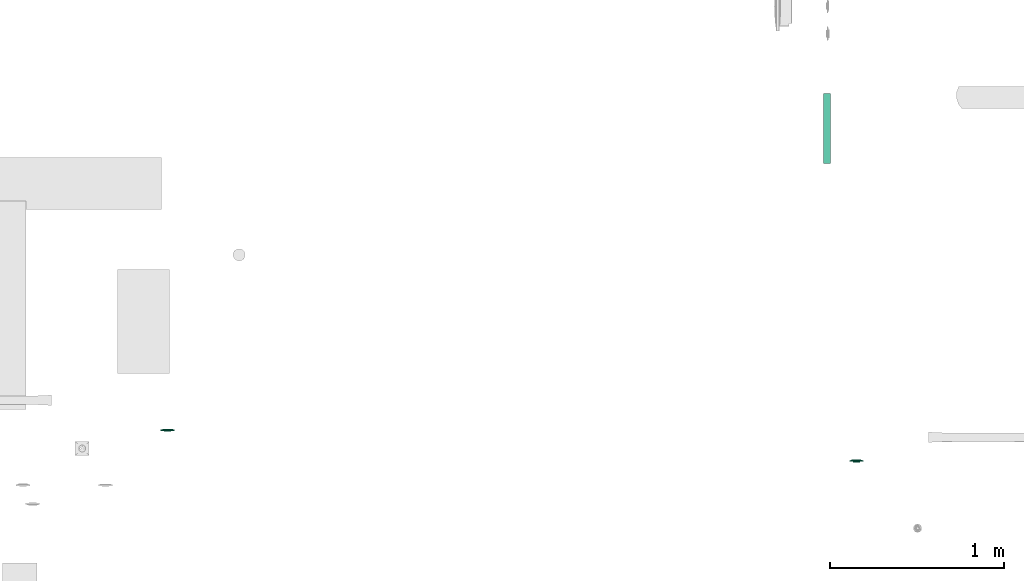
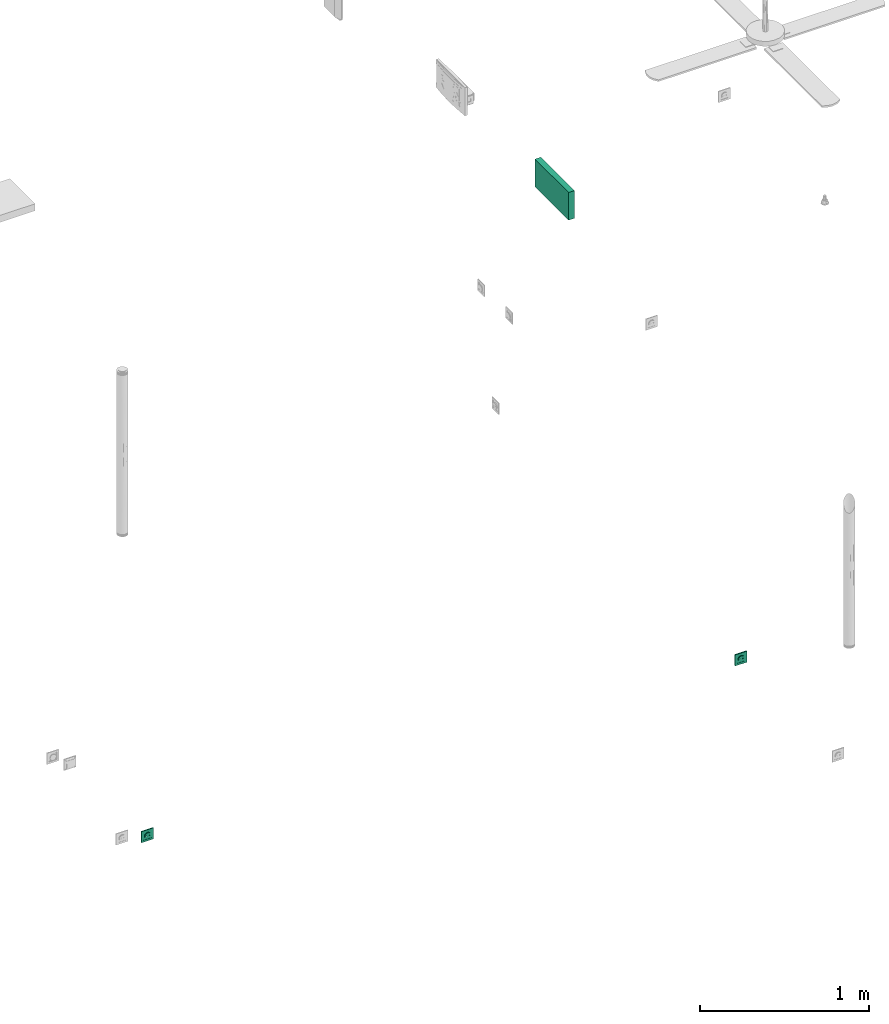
# One storey, part 71 of 153: 3 flow terminals.
"""IFC2X3 building model written with IfcOpenShell, lengths in metres."""

from ifc_helpers import new_model, entity, si_unit, converted_unit, derived_unit, direction, frame, frame_2d, origin, place, context, subcontext, project, spatial, rectangle, extrude, face_set, surface_model, source, transform, mapped, type_object, type_shapes, element, save


model = new_model("IFC2X3")

# Units and contexts
model_context = context("Model", 3, precision=1e-05, world=origin(), true_north=direction((6.12303176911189e-17, 1.0)))
body_context = subcontext(model_context, "Body", "Model", "MODEL_VIEW")
ifc_project = project(units=[si_unit("LENGTHUNIT", "METRE"), si_unit("AREAUNIT", "SQUARE_METRE"), si_unit("VOLUMEUNIT", "CUBIC_METRE"), converted_unit("PLANEANGLEUNIT", "DEGREE", entity("IfcRatioMeasure", 0.0174532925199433), si_unit("PLANEANGLEUNIT", "RADIAN"), dimensions=[0, 0, 0, 0, 0, 0, 0]), si_unit("MASSUNIT", "GRAM", prefix="KILO"), derived_unit("MASSDENSITYUNIT", [(si_unit("MASSUNIT", "GRAM", prefix="KILO"), 1), (si_unit("LENGTHUNIT", "METRE"), -3)]), si_unit("TIMEUNIT", "SECOND"), si_unit("FREQUENCYUNIT", "HERTZ"), si_unit("THERMODYNAMICTEMPERATUREUNIT", "DEGREE_CELSIUS"), derived_unit("THERMALTRANSMITTANCEUNIT", [(si_unit("MASSUNIT", "GRAM", prefix="KILO"), 1), (si_unit("THERMODYNAMICTEMPERATUREUNIT", "KELVIN"), -1), (si_unit("TIMEUNIT", "SECOND"), -3)]), derived_unit("VOLUMETRICFLOWRATEUNIT", [(si_unit("LENGTHUNIT", "METRE"), 3), (si_unit("TIMEUNIT", "SECOND"), -1)]), si_unit("ELECTRICCURRENTUNIT", "AMPERE"), si_unit("ELECTRICVOLTAGEUNIT", "VOLT"), si_unit("POWERUNIT", "WATT"), si_unit("FORCEUNIT", "NEWTON"), si_unit("ILLUMINANCEUNIT", "LUX"), si_unit("LUMINOUSFLUXUNIT", "LUMEN"), si_unit("LUMINOUSINTENSITYUNIT", "CANDELA"), derived_unit("USERDEFINED", [(si_unit("MASSUNIT", "GRAM", prefix="KILO"), -1), (si_unit("LENGTHUNIT", "METRE"), -2), (si_unit("TIMEUNIT", "SECOND"), 3), (si_unit("LUMINOUSFLUXUNIT", "LUMEN"), 1)]), derived_unit("LINEARVELOCITYUNIT", [(si_unit("LENGTHUNIT", "METRE"), 1), (si_unit("TIMEUNIT", "SECOND"), -1)]), si_unit("PRESSUREUNIT", "PASCAL"), derived_unit("USERDEFINED", [(si_unit("LENGTHUNIT", "METRE"), -2), (si_unit("MASSUNIT", "GRAM", prefix="KILO"), 1), (si_unit("TIMEUNIT", "SECOND"), -2)])], contexts=[model_context])

# Site, building, storey
site_placement = place(None, origin())
site = spatial("IfcSite", under=ifc_project, at=site_placement, Name="Default", CompositionType="ELEMENT")
building_placement = place(site_placement, origin())
building = spatial("IfcBuilding", under=site, at=building_placement, CompositionType="ELEMENT")
storey_placement = place(building_placement, frame((0.0, 0.0, -4.62)))
storey = spatial("IfcBuildingStorey", under=building, at=storey_placement, Name="S02", CompositionType="ELEMENT", Elevation=-4.62)

# Flow terminals
light_fixture_type = type_object("IfcLightFixtureType", Name="Attente", PredefinedType="NOTDEFINED")
shared_shape_1 = source(origin(), body_context, "Body", "SurfaceModel", [
    surface_model("IfcFaceBasedSurfaceModel", [(0.00225000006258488, 0.00949633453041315, 0.0127499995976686), (0.0, 0.00949633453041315, 0.0104999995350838), (0.0, 0.0101656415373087, 0.0115376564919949), (0.0, 0.0101656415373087, 0.0139623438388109), (0.0, 0.00984531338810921, 0.0144589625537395), (0.0, 0.0102778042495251, 0.0121178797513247), (0.0, 0.0102778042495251, 0.0133821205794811), (0.0, 0.010399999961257, 0.0127499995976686), (0.0, 0.00949633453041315, 0.0149999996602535), (-0.00225000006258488, 0.00949633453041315, 0.0127499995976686), (0.0, 0.00984531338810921, 0.0110410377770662), (0.0, 0.00949633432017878, 0.0127499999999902), (-0.0022499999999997, 0.0094963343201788, 0.0127499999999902), (-0.00217333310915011, 0.00949633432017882, 0.0121676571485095), (-0.0019485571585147, 0.00949633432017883, 0.0116249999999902), (-0.00159099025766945, 0.00949633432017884, 0.0111590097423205), (-0.00112499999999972, 0.00949633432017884, 0.0108014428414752), (-0.000582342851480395, 0.00949633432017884, 0.0105766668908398), (0.0, 0.00949633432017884, 0.0104999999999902), (0.000582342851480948, 0.00949633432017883, 0.0105766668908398), (0.00112500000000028, 0.00949633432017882, 0.0108014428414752), (0.00159099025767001, 0.00949633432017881, 0.0111590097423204), (0.00194855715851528, 0.00949633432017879, 0.0116249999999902), (0.0021733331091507, 0.00949633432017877, 0.0121676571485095), (0.0022500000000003, 0.00949633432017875, 0.0127499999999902), (0.00217333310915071, 0.00949633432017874, 0.0133323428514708), (0.0019485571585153, 0.00949633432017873, 0.0138749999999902), (0.00159099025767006, 0.00949633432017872, 0.0143409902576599), (0.00112500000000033, 0.00949633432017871, 0.0146985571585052), (0.000582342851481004, 0.00949633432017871, 0.0149233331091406), (0.0, 0.00949633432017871, 0.0149999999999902), (-0.000582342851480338, 0.00949633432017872, 0.0149233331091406), (-0.00112499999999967, 0.00949633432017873, 0.0146985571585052), (-0.00159099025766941, 0.00949633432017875, 0.0143409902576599), (-0.00194855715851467, 0.00949633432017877, 0.0138749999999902), (-0.00217333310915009, 0.00949633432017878, 0.0133323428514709), (-0.00224999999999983, -0.00360000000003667, 0.0127499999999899), (-0.00217333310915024, -0.00360000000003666, 0.0121676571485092), (-0.00194855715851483, -0.00360000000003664, 0.0116249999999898), (-0.00159099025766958, -0.00360000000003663, 0.0111590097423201), (-0.00112499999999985, -0.00360000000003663, 0.0108014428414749), (-0.000582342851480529, -0.00360000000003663, 0.0105766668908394), (0.0, -0.00360000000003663, 0.0104999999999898), (0.000582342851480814, -0.00360000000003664, 0.0105766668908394), (0.00112500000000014, -0.00360000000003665, 0.0108014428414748), (0.00159099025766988, -0.00360000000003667, 0.0111590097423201), (0.00194855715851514, -0.00360000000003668, 0.0116249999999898), (0.00217333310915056, -0.0036000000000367, 0.0121676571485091), (0.00225000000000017, -0.00360000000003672, 0.0127499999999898), (0.00217333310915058, -0.00360000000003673, 0.0133323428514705), (0.00194855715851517, -0.00360000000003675, 0.0138749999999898), (0.00159099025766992, -0.00360000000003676, 0.0143409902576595), (0.00112500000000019, -0.00360000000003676, 0.0146985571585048), (0.00058234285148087, -0.00360000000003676, 0.0149233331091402), (0.0, -0.00360000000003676, 0.0149999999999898), (-0.000582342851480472, -0.00360000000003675, 0.0149233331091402), (-0.0011249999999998, -0.00360000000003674, 0.0146985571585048), (-0.00159099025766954, -0.00360000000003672, 0.0143409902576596), (-0.0019485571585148, -0.00360000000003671, 0.0138749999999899), (-0.00217333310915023, -0.00360000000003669, 0.0133323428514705), (-0.0270000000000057, 0.0113999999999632, 0.0269999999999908), (0.0269999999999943, 0.0113999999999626, 0.0269999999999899), (0.0269999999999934, 0.0113999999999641, -0.0270000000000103), (-0.0270000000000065, 0.0113999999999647, -0.0270000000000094), (0.0199999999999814, 0.0113999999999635, 0.0), (0.0193185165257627, 0.0113999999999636, -0.00517638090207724), (0.0173205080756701, 0.0113999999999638, -0.0100000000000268), (0.0141421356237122, 0.0113999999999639, -0.0141421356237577), (0.00999999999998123, 0.011399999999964, -0.0173205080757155), (0.00517638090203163, 0.0113999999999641, -0.019318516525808), (0.0, 0.0113999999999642, -0.0200000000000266), (-0.00517638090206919, 0.0113999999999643, -0.0193185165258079), (-0.0100000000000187, 0.0113999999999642, -0.0173205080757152), (-0.0141421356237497, 0.0113999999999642, -0.0141421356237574), (-0.0173205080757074, 0.0113999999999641, -0.0100000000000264), (-0.0193185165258, 0.011399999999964, -0.0051763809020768), (-0.0200000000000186, 0.0113999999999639, 0.0), (-0.0193185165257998, 0.0113999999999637, 0.00517638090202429), (-0.0173205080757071, 0.0113999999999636, 0.00999999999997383), (-0.0141421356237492, 0.0113999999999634, 0.0141421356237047), (-0.0100000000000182, 0.0113999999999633, 0.0173205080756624), (-0.00517638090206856, 0.0113999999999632, 0.0193185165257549), (0.0, 0.0113999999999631, 0.0199999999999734), (0.00517638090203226, 0.0113999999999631, 0.0193185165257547), (0.0099999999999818, 0.0113999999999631, 0.017320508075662), (0.0141421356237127, 0.0113999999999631, 0.0141421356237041), (0.0173205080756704, 0.0113999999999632, 0.00999999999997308), (0.0193185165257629, 0.0113999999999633, 0.00517638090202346), (-0.0270000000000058, 0.00199999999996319, 0.0269999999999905), (-0.0270000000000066, 0.00199999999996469, -0.0270000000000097), (0.0269999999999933, 0.00199999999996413, -0.0270000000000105), (0.0269999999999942, 0.00199999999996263, 0.0269999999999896), (-0.0210000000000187, 0.00199999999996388, 0.0), (-0.0202844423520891, 0.00199999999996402, -0.00543519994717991), (-0.0181865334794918, 0.00199999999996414, -0.0105000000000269), (-0.0148492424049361, 0.00199999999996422, -0.0148492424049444), (-0.0105000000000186, 0.00199999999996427, -0.0181865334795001), (-0.00543519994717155, 0.00199999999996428, -0.0202844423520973), (0.0, 0.00199999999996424, -0.0210000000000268), (0.00543519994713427, 0.00199999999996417, -0.0202844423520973), (0.0104999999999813, 0.00199999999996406, -0.0181865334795), (0.0148492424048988, 0.00199999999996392, -0.0148492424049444), (0.0181865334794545, 0.00199999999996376, -0.0105000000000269), (0.0202844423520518, 0.0019999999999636, -0.00543519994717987), (0.0209999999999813, 0.00199999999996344, 0.0), (0.0202844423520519, 0.0019999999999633, 0.0054351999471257), (0.0181865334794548, 0.00199999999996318, 0.0104999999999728), (0.0148492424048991, 0.00199999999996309, 0.0148492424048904), (0.0104999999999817, 0.00199999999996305, 0.0181865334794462), (0.00543519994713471, 0.00199999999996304, 0.0202844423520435), (0.0, 0.00199999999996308, 0.0209999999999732), (-0.00543519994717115, 0.00199999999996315, 0.0202844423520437), (-0.0105000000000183, 0.00199999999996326, 0.0181865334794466), (-0.0148492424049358, 0.0019999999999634, 0.014849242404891), (-0.0181865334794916, 0.00199999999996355, 0.0104999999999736), (-0.020284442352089, 0.00199999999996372, 0.00543519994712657), (-0.0200000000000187, -0.00360000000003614, 0.0), (-0.0193185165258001, -0.003600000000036, -0.00517638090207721), (-0.0173205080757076, -0.00360000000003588, -0.0100000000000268), (-0.0141421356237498, -0.0036000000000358, -0.0141421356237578), (-0.0100000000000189, -0.00360000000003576, -0.0173205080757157), (-0.00517638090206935, -0.00360000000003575, -0.0193185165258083), (0.0, -0.00360000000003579, -0.020000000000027), (0.00517638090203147, -0.00360000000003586, -0.0193185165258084), (0.00999999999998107, -0.00360000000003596, -0.0173205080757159), (0.0141421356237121, -0.00360000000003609, -0.0141421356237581), (0.0173205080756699, -0.00360000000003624, -0.0100000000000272), (0.0193185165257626, -0.0036000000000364, -0.00517638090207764), (0.0199999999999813, -0.00360000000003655, 0.0), (0.0193185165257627, -0.00360000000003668, 0.00517638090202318), (0.0173205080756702, -0.0036000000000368, 0.00999999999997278), (0.0141421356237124, -0.00360000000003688, 0.0141421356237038), (0.00999999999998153, -0.00360000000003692, 0.0173205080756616), (0.00517638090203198, -0.00360000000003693, 0.0193185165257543), (0.0, -0.0036000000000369, 0.019999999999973), (-0.00517638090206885, -0.00360000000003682, 0.0193185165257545), (-0.0100000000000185, -0.00360000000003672, 0.0173205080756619), (-0.0141421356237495, -0.00360000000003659, 0.0141421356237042), (-0.0173205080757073, -0.00360000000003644, 0.00999999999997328), (-0.0193185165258, -0.00360000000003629, 0.00517638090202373), (0.0123499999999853, -0.00360000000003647, 0.0), (0.0122562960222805, -0.00360000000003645, -0.000711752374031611), (0.0119815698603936, -0.00360000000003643, -0.00137499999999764), (0.0115445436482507, -0.00360000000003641, -0.00194454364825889), (0.0109749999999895, -0.00360000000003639, -0.00238156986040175), (0.0103117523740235, -0.00360000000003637, -0.00265629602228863), (0.00959999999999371, -0.00360000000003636, -0.00274999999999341), (0.00888824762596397, -0.00360000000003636, -0.00265629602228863), (0.00822499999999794, -0.00360000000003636, -0.00238156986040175), (0.00765545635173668, -0.00360000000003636, -0.00194454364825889), (0.00721843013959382, -0.00360000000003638, -0.00137499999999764), (0.00694370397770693, -0.00360000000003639, -0.000711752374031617), (0.00685000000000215, -0.00360000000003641, 0.0), (0.00694370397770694, -0.00360000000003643, 0.000711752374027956), (0.00721843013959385, -0.00360000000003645, 0.00137499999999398), (0.00765545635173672, -0.00360000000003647, 0.00194454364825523), (0.00822499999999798, -0.00360000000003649, 0.00238156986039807), (0.00888824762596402, -0.00360000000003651, 0.00265629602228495), (0.00959999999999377, -0.00360000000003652, 0.0027499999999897), (0.0103117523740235, -0.00360000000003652, 0.00265629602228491), (0.0109749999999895, -0.00360000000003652, 0.00238156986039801), (0.0115445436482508, -0.00360000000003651, 0.00194454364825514), (0.0119815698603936, -0.0036000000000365, 0.00137499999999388), (0.0122562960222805, -0.00360000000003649, 0.000711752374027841), (-0.00685000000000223, -0.00360000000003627, 0.0), (-0.00694370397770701, -0.00360000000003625, -0.000711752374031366), (-0.0072184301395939, -0.00360000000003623, -0.00137499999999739), (-0.00765545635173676, -0.00360000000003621, -0.00194454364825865), (-0.00822499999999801, -0.00360000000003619, -0.0023815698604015), (-0.00888824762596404, -0.00360000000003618, -0.00265629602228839), (-0.00959999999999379, -0.00360000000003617, -0.00274999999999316), (-0.0103117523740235, -0.00360000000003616, -0.00265629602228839), (-0.0109749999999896, -0.00360000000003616, -0.00238156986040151), (-0.0115445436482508, -0.00360000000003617, -0.00194454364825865), (-0.0119815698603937, -0.00360000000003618, -0.0013749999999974), (-0.0122562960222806, -0.0036000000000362, -0.000711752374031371), (-0.0123499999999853, -0.00360000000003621, 0.0), (-0.0122562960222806, -0.00360000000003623, 0.000711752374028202), (-0.0119815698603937, -0.00360000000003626, 0.00137499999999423), (-0.0115445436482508, -0.00360000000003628, 0.00194454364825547), (-0.0109749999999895, -0.00360000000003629, 0.00238156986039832), (-0.0103117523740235, -0.00360000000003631, 0.00265629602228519), (-0.00959999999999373, -0.00360000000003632, 0.00274999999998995), (-0.00888824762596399, -0.00360000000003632, 0.00265629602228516), (-0.00822499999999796, -0.00360000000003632, 0.00238156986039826), (-0.00765545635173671, -0.00360000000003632, 0.00194454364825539), (-0.00721843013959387, -0.0036000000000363, 0.00137499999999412), (-0.00694370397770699, -0.00360000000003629, 0.000711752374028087), (-0.0210000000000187, -0.00460000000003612, 0.0), (-0.0202844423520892, -0.00460000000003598, -0.00543519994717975), (-0.018186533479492, -0.00460000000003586, -0.0105000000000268), (-0.0148492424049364, -0.00460000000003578, -0.0148492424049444), (-0.0105000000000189, -0.00460000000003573, -0.0181865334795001), (-0.00543519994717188, -0.00460000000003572, -0.0202844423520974), (0.0, -0.00460000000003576, -0.021000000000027), (0.00543519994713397, -0.00460000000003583, -0.0202844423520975), (0.0104999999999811, -0.00460000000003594, -0.0181865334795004), (0.0148492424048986, -0.00460000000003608, -0.0148492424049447), (0.0181865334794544, -0.00460000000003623, -0.0105000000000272), (0.0202844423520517, -0.0046000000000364, -0.0054351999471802), (0.0209999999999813, -0.00460000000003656, 0.0), (0.0202844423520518, -0.0046000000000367, 0.00543519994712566), (0.0181865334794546, -0.00460000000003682, 0.0104999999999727), (0.014849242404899, -0.00460000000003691, 0.0148492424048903), (0.0104999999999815, -0.00460000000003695, 0.0181865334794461), (0.0054351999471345, -0.00460000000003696, 0.0202844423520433), (0.0, -0.00460000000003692, 0.020999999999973), (-0.00543519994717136, -0.00460000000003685, 0.0202844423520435), (-0.0105000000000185, -0.00460000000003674, 0.0181865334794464), (-0.014849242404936, -0.0046000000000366, 0.0148492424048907), (-0.0181865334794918, -0.00460000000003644, 0.0104999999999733), (-0.0202844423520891, -0.00460000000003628, 0.00543519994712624), (0.00685000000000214, -0.00460000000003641, 0.0), (0.00694370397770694, -0.00460000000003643, 0.000711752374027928), (0.00721843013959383, -0.00460000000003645, 0.00137499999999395), (0.0076554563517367, -0.00460000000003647, 0.0019445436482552), (0.00822499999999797, -0.00460000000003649, 0.00238156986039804), (0.00888824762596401, -0.0046000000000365, 0.00265629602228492), (0.00959999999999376, -0.00460000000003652, 0.00274999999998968), (0.0103117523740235, -0.00460000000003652, 0.00265629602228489), (0.0109749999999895, -0.00460000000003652, 0.00238156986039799), (0.0115445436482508, -0.00460000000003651, 0.00194454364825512), (0.0119815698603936, -0.0046000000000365, 0.00137499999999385), (0.0122562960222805, -0.00460000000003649, 0.000711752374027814), (0.0123499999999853, -0.00460000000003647, 0.0), (0.0122562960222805, -0.00460000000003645, -0.00071175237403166), (0.0119815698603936, -0.00460000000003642, -0.00137499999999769), (0.0115445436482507, -0.0046000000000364, -0.00194454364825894), (0.0109749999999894, -0.00460000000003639, -0.00238156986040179), (0.0103117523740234, -0.00460000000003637, -0.00265629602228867), (0.00959999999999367, -0.00460000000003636, -0.00274999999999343), (0.00888824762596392, -0.00460000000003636, -0.00265629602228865), (0.00822499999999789, -0.00460000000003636, -0.00238156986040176), (0.00765545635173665, -0.00460000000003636, -0.00194454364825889), (0.00721843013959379, -0.00460000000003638, -0.00137499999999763), (0.00694370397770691, -0.00460000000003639, -0.0007117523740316), (-0.0123499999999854, -0.00460000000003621, 0.0), (-0.0122562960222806, -0.00460000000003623, 0.000711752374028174), (-0.0119815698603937, -0.00460000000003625, 0.0013749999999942), (-0.0115445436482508, -0.00460000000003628, 0.00194454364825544), (-0.0109749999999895, -0.00460000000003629, 0.00238156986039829), (-0.0103117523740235, -0.00460000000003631, 0.00265629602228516), (-0.00959999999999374, -0.00460000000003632, 0.00274999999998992), (-0.008888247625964, -0.00460000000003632, 0.00265629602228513), (-0.00822499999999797, -0.00460000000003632, 0.00238156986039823), (-0.00765545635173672, -0.00460000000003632, 0.00194454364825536), (-0.00721843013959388, -0.0046000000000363, 0.0013749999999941), (-0.006943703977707, -0.00460000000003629, 0.000711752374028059), (-0.00685000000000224, -0.00460000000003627, 0.0), (-0.00694370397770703, -0.00460000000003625, -0.000711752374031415), (-0.00721843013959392, -0.00460000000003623, -0.00137499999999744), (-0.00765545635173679, -0.00460000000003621, -0.00194454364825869), (-0.00822499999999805, -0.00460000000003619, -0.00238156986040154), (-0.00888824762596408, -0.00460000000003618, -0.00265629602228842), (-0.00959999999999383, -0.00460000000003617, -0.00274999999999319), (-0.0103117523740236, -0.00460000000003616, -0.00265629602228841), (-0.0109749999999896, -0.00460000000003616, -0.00238156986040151), (-0.0115445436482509, -0.00460000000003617, -0.00194454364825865), (-0.0119815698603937, -0.00460000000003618, -0.00137499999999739), (-0.0122562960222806, -0.00460000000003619, -0.000711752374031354), (-0.0403499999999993, 0.00659999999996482, 0.0403499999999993), (-0.0403500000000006, 0.00659999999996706, -0.0403500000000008), (0.0403499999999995, 0.00659999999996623, -0.0403500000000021), (0.0403500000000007, 0.00659999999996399, 0.040349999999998), (-0.0269999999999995, 0.00659999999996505, 0.026999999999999), (0.0270000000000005, 0.0065999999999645, 0.0269999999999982), (0.0269999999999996, 0.006599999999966, -0.0270000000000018), (-0.0270000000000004, 0.00659999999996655, -0.027000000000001), (-0.0269999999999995, 0.0103999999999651, 0.0269999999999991), (0.0270000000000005, 0.0103999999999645, 0.0269999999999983), (0.0269999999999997, 0.010399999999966, -0.0270000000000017), (-0.0270000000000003, 0.0103999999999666, -0.0270000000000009), (-0.0403499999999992, 0.00659999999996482, 0.0403499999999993), (-0.0403500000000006, 0.00659999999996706, -0.0403500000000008), (0.0403499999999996, 0.00659999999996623, -0.0403500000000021), (0.0403500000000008, 0.00659999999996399, 0.040349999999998), (0.0270000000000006, 0.0065999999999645, 0.0269999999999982), (0.0269999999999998, 0.006599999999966, -0.0270000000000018), (-0.0270000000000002, 0.00659999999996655, -0.027000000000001), (-0.0269999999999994, 0.00659999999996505, 0.026999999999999), (-0.0403499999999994, 0.0, 0.0403499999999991), (-0.0403500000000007, 0.0, -0.040350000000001), (0.0403499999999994, 0.0, -0.0403500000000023), (0.0403500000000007, 0.0, 0.0403499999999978), (-0.0269999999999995, 0.0, 0.0269999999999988), (0.0270000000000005, 0.0, 0.026999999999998), (0.0269999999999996, 0.0, -0.027000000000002), (-0.0270000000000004, 0.0, -0.0270000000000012)], [face_set([[[0, 1, 2]], [[3, 4, 2, 5]], [[6, 3, 5, 7]], [[2, 4, 0]], [[4, 8, 0]], [[3, 9, 8]], [[1, 9, 10]], [[2, 3, 6, 7]], [[3, 10, 9]], [[2, 10, 3]], [[11, 1, 0, 8]], [[11, 8, 9, 1]]]), face_set([[[12, 13, 14, 15, 16, 17, 18, 19, 20, 21, 22, 23, 24, 25, 26, 27, 28, 29, 30, 31, 32, 33, 34, 35]], [[36, 37, 38, 39, 40, 41, 42, 43, 44, 45, 46, 47, 48, 49, 50, 51, 52, 53, 54, 55, 56, 57, 58, 59]], [[48, 47, 23, 24]], [[47, 46, 22, 23]], [[45, 44, 20, 21]], [[46, 45, 21, 22]], [[44, 43, 19, 20]], [[18, 19, 43, 42]], [[42, 41, 17, 18]], [[41, 40, 16, 17]], [[39, 38, 14, 15]], [[40, 39, 15, 16]], [[38, 37, 13, 14]], [[12, 13, 37, 36]], [[36, 59, 35, 12]], [[59, 58, 34, 35]], [[57, 56, 32, 33]], [[58, 57, 33, 34]], [[56, 55, 31, 32]], [[30, 31, 55, 54]], [[54, 53, 29, 30]], [[53, 52, 28, 29]], [[51, 50, 26, 27]], [[52, 51, 27, 28]], [[50, 49, 25, 26]], [[24, 25, 49, 48]]]), face_set([[[60, 61, 62, 63], [64, 65, 66, 67, 68, 69, 70, 71, 72, 73, 74, 75, 76, 77, 78, 79, 80, 81, 82, 83, 84, 85, 86, 87]], [[88, 89, 90, 91], [92, 93, 94, 95, 96, 97, 98, 99, 100, 101, 102, 103, 104, 105, 106, 107, 108, 109, 110, 111, 112, 113, 114, 115]], [[61, 60, 88, 91]], [[62, 61, 91, 90]], [[63, 62, 90, 89]], [[60, 63, 89, 88]], [[116, 117, 118, 119, 120, 121, 122, 123, 124, 125, 126, 127, 128, 129, 130, 131, 132, 133, 134, 135, 136, 137, 138, 139], [140, 141, 142, 143, 144, 145, 146, 147, 148, 149, 150, 151, 152, 153, 154, 155, 156, 157, 158, 159, 160, 161, 162, 163], [164, 165, 166, 167, 168, 169, 170, 171, 172, 173, 174, 175, 176, 177, 178, 179, 180, 181, 182, 183, 184, 185, 186, 187]], [[64, 128, 127, 65]], [[65, 127, 126, 66]], [[67, 125, 124, 68]], [[66, 126, 125, 67]], [[68, 124, 123, 69]], [[122, 70, 69, 123]], [[70, 122, 121, 71]], [[71, 121, 120, 72]], [[73, 119, 118, 74]], [[72, 120, 119, 73]], [[74, 118, 117, 75]], [[116, 76, 75, 117]], [[76, 116, 139, 77]], [[77, 139, 138, 78]], [[79, 137, 136, 80]], [[78, 138, 137, 79]], [[80, 136, 135, 81]], [[134, 82, 81, 135]], [[82, 134, 133, 83]], [[83, 133, 132, 84]], [[84, 132, 131, 85]], [[85, 131, 130, 86]], [[130, 129, 87, 86]], [[64, 87, 129, 128]], [[188, 189, 190, 191, 192, 193, 194, 195, 196, 197, 198, 199, 200, 201, 202, 203, 204, 205, 206, 207, 208, 209, 210, 211], [212, 213, 214, 215, 216, 217, 218, 219, 220, 221, 222, 223, 224, 225, 226, 227, 228, 229, 230, 231, 232, 233, 234, 235], [236, 237, 238, 239, 240, 241, 242, 243, 244, 245, 246, 247, 248, 249, 250, 251, 252, 253, 254, 255, 256, 257, 258, 259]], [[200, 199, 103, 104]], [[199, 198, 102, 103]], [[197, 196, 100, 101]], [[198, 197, 101, 102]], [[196, 195, 99, 100]], [[98, 99, 195, 194]], [[194, 193, 97, 98]], [[193, 192, 96, 97]], [[191, 190, 94, 95]], [[192, 191, 95, 96]], [[190, 189, 93, 94]], [[92, 93, 189, 188]], [[188, 211, 115, 92]], [[211, 210, 114, 115]], [[209, 208, 112, 113]], [[210, 209, 113, 114]], [[208, 207, 111, 112]], [[110, 111, 207, 206]], [[206, 205, 109, 110]], [[205, 204, 108, 109]], [[203, 202, 106, 107]], [[204, 203, 107, 108]], [[202, 201, 105, 106]], [[104, 105, 201, 200]], [[141, 225, 226, 142]], [[140, 224, 225, 141]], [[144, 228, 229, 145]], [[143, 227, 228, 144]], [[142, 226, 227, 143]], [[230, 146, 145, 229]], [[149, 233, 232, 148]], [[148, 232, 231, 147]], [[152, 212, 235, 151]], [[151, 235, 234, 150]], [[150, 234, 233, 149]], [[146, 230, 231, 147]], [[154, 214, 213, 153]], [[153, 213, 212, 152]], [[157, 217, 216, 156]], [[156, 216, 215, 155]], [[155, 215, 214, 154]], [[218, 158, 157, 217]], [[160, 220, 221, 161]], [[159, 219, 220, 160]], [[163, 223, 224, 140]], [[162, 222, 223, 163]], [[161, 221, 222, 162]], [[158, 218, 219, 159]], [[166, 250, 249, 165]], [[165, 249, 248, 164]], [[169, 253, 252, 168]], [[168, 252, 251, 167]], [[167, 251, 250, 166]], [[254, 170, 169, 253]], [[172, 256, 257, 173]], [[171, 255, 256, 172]], [[175, 259, 236, 176]], [[174, 258, 259, 175]], [[173, 257, 258, 174]], [[170, 254, 255, 171]], [[177, 237, 238, 178]], [[176, 236, 237, 177]], [[180, 240, 241, 181]], [[179, 239, 240, 180]], [[178, 238, 239, 179]], [[242, 182, 181, 241]], [[185, 245, 244, 184]], [[184, 244, 243, 183]], [[164, 248, 247, 187]], [[187, 247, 246, 186]], [[186, 246, 245, 185]], [[182, 242, 243, 183]]]), face_set([[[260, 261, 262, 263], [264, 265, 266, 267]], [[260, 268, 269, 263]], [[263, 269, 270, 262]], [[262, 270, 271, 261]], [[261, 271, 268, 260]], [[264, 265, 269, 268]], [[265, 266, 270, 269]], [[266, 267, 271, 270]], [[268, 271, 267, 264]]]), face_set([[[272, 273, 274, 275], [276, 277, 278, 279]], [[280, 281, 282, 283], [284, 285, 286, 287]], [[275, 272, 280, 283]], [[274, 275, 283, 282]], [[273, 274, 282, 281]], [[272, 273, 281, 280]], [[284, 285, 276, 279]], [[285, 286, 277, 276]], [[286, 287, 278, 277]], [[279, 278, 287, 284]]])]),
])
type_shapes(light_fixture_type, [shared_shape_1])
for number, where, name in (
    (1, (45.4897436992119, -191.010462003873, 0.0), "INT_Attente électrique:Attente"),
    (2, (41.5262660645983, -190.833467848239, 0.0), "INT_Attente électrique:Attente"),
):
    element("IfcFlowTerminal", number, at=place(storey_placement, frame(where)), inside=storey, type_object=light_fixture_type, Name=name, ObjectType="INT_Attente électrique:Attente", context=body_context, shape_type="MappedRepresentation", body=[
        mapped(shared_shape_1, transform((0.0, 0.0, 0.0), scale=1.0)),
    ])
electric_appliance_type = type_object("IfcElectricApplianceType", Name="Horloge secondaire", PredefinedType="NOTDEFINED")
shared_shape_2 = source(origin(), body_context, "Body", "SweptSolid", [
    extrude(rectangle(XDim=0.4, YDim=0.04, at=frame_2d((0.0, 1.73472347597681e-18), x_axis=(1.0, 0.0))), frame((0.0, 0.0, -0.199999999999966)), (0.0, 0.0, 1.0), 0.2),
])
type_shapes(electric_appliance_type, [shared_shape_2])
flow_terminal_placement = place(storey_placement, frame((45.319743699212, -189.093426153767, 2.4), z_axis=(0.0, 0.0, 1.0), x_axis=(0.0, -1.0, 0.0)))
element("IfcFlowTerminal", 3, at=flow_terminal_placement, inside=storey, type_object=electric_appliance_type, Name="E_Clock_One Side Ceiling_MEPcontent:Horloge secondaire", ObjectType="E_Clock_One Side Ceiling_MEPcontent:Horloge secondaire", context=body_context, shape_type="MappedRepresentation", body=[
    mapped(shared_shape_2, transform((0.0, 0.0, 0.0), scale=1.0)),
])

save(model, "model.ifc")
